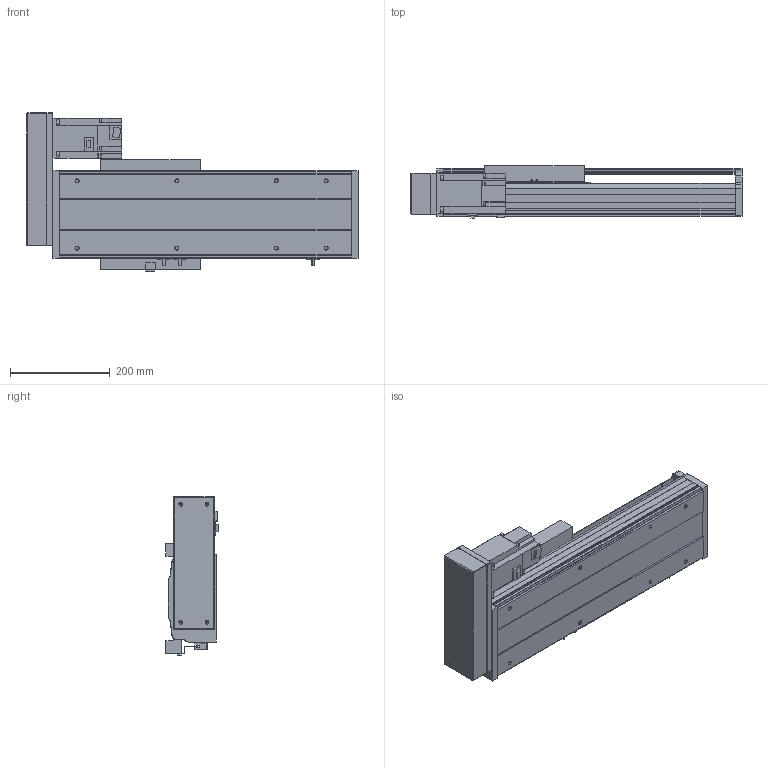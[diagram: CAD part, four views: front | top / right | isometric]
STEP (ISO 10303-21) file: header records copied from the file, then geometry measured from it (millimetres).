
FILE_DESCRIPTION( ( 'STEP AP214' ), '1' );
FILE_NAME( 'x:/temp/worker_27/temp/exporttempdir_6708_439_tLGyk/format_0/PSS200-L10-S250-BL-T75-C1-N(0).stp', '2022-06-06T02:49:41', ( 'License CC BY-ND 4.0' ), ( 'CADENAS' ), ' ', 'PARTsolutions', ' ' );
FILE_SCHEMA( ( 'AUTOMOTIVE_DESIGN { 1 0 10303 214 1 1 1 1 }' ) );
Length unit declared in the file: millimetre
Products named in the file (8): PSS200-L10-S250-BL-T75-C1-N(0); _PSS200-S250-BL-C1-N_body; _PSS200-N_Q; _PSS200-BL-C1-N_sl; _PSS200-N_sensor; _PSS200BL-N_h; _T75-p1; _PSS200-S250-BL-N_S
Assembly tree (9 placements, depth 2):
  PSS200-L10-S250-BL-T75-C1-N(0)
    _PSS200-S250-BL-C1-N_body
    _PSS200-N_Q
    _PSS200-BL-C1-N_sl
    _PSS200-N_sensor  x3
    _PSS200BL-N_h
    _T75-p1
    _PSS200-S250-BL-N_S
Bounding box: 666.85 x 105.3 x 317.86 mm (x, y, z)
Volume: 6078909 mm3; surface area: 1194723.3 mm2
Topology: 9 solids, 9 shells, 596 faces, 1585 edges, 1046 vertices
Faces by surface type: plane 466, cylinder 110, cone 16, sphere 4
Full cylindrical faces by diameter (mm): 4 x2, 4.5 x4, 6 x7, 6.647 x12, 7.4 x4, 8 x8, 10 x6, 25 x1, 40 x1, 67 x1
Entity records: 20790 total; most frequent: CARTESIAN_POINT 2843, DIRECTION 2732, ORIENTED_EDGE 2714, EDGE_CURVE 1357, LINE 1090, VECTOR 1090, VERTEX_POINT 932, AXIS2_PLACEMENT_3D 821
